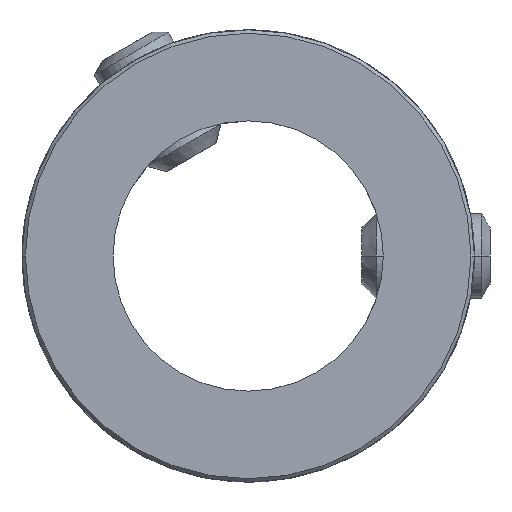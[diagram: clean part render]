
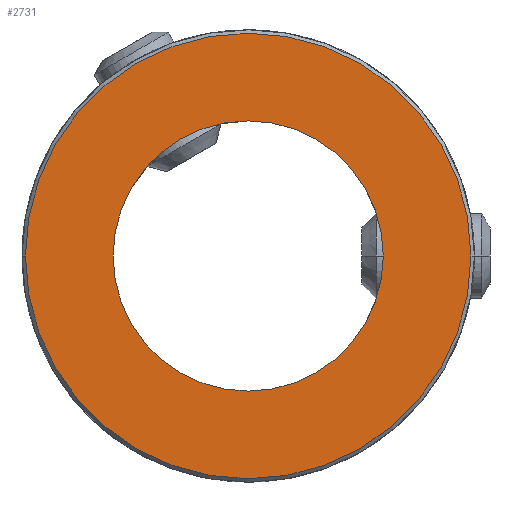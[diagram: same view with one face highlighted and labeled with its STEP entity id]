
A CAD part, front view. The second image highlights one B-rep face of the part: STEP entity #2731.
In plain terms, the highlighted planar face has unit normal (0, -1, 0).
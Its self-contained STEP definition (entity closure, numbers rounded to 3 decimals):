
#1=CARTESIAN_POINT('',(0.,-28.6,
0.));
#2=DIRECTION('',(0.,-1.,0.));
#3=DIRECTION('',(-1.,0.,0.));
#4=AXIS2_PLACEMENT_3D('',#1,#2,#3);
#6=CARTESIAN_POINT('',(0.,-28.6,
0.));
#7=DIRECTION('',(0.,-1.,0.));
#8=DIRECTION('',(1.,0.,0.));
#9=AXIS2_PLACEMENT_3D('',#6,#7,#8);
#11=CARTESIAN_POINT('',(0.,-28.6,0.));
#12=DIRECTION('',(0.,1.,0.));
#13=DIRECTION('',(1.,0.,0.));
#14=AXIS2_PLACEMENT_3D('',#11,#12,#13);
#16=CARTESIAN_POINT('',(0.,-28.6,0.));
#17=DIRECTION('',(0.,1.,0.));
#18=DIRECTION('',(-1.,0.,0.));
#19=AXIS2_PLACEMENT_3D('',#16,#17,#18);
#2496=CARTESIAN_POINT('',(9.5,-28.6,0.));
#2497=CARTESIAN_POINT('',(-9.5,-28.6,0.));
#2498=VERTEX_POINT('',#2496);
#2499=VERTEX_POINT('',#2497);
#2524=CARTESIAN_POINT('',(-15.66,-28.6,0.));
#2525=CARTESIAN_POINT('',(15.66,-28.6,0.));
#2526=VERTEX_POINT('',#2524);
#2527=VERTEX_POINT('',#2525);
#2714=CARTESIAN_POINT('',(0.,-28.6,0.));
#2715=DIRECTION('',(0.,1.,0.));
#2716=DIRECTION('',(1.,0.,0.));
#2717=AXIS2_PLACEMENT_3D('',#2714,#2715,#2716);
#2718=PLANE('',#2717);
#2720=ORIENTED_EDGE('',*,*,#2719,.F.);
#2722=ORIENTED_EDGE('',*,*,#2721,.F.);
#2723=EDGE_LOOP('',(#2720,#2722));
#2724=FACE_OUTER_BOUND('',#2723,.F.);
#2726=ORIENTED_EDGE('',*,*,#2725,.F.);
#2728=ORIENTED_EDGE('',*,*,#2727,.F.);
#2729=EDGE_LOOP('',(#2726,#2728));
#2730=FACE_BOUND('',#2729,.F.);
#2731=ADVANCED_FACE('',(#2724,#2730),#2718,.F.);
#5=CIRCLE('',#4,15.66);
#10=CIRCLE('',#9,15.66);
#15=CIRCLE('',#14,9.5);
#20=CIRCLE('',#19,9.5);
#2719=EDGE_CURVE('',#2526,#2527,#5,.T.);
#2721=EDGE_CURVE('',#2527,#2526,#10,.T.);
#2725=EDGE_CURVE('',#2498,#2499,#15,.T.);
#2727=EDGE_CURVE('',#2499,#2498,#20,.T.);
